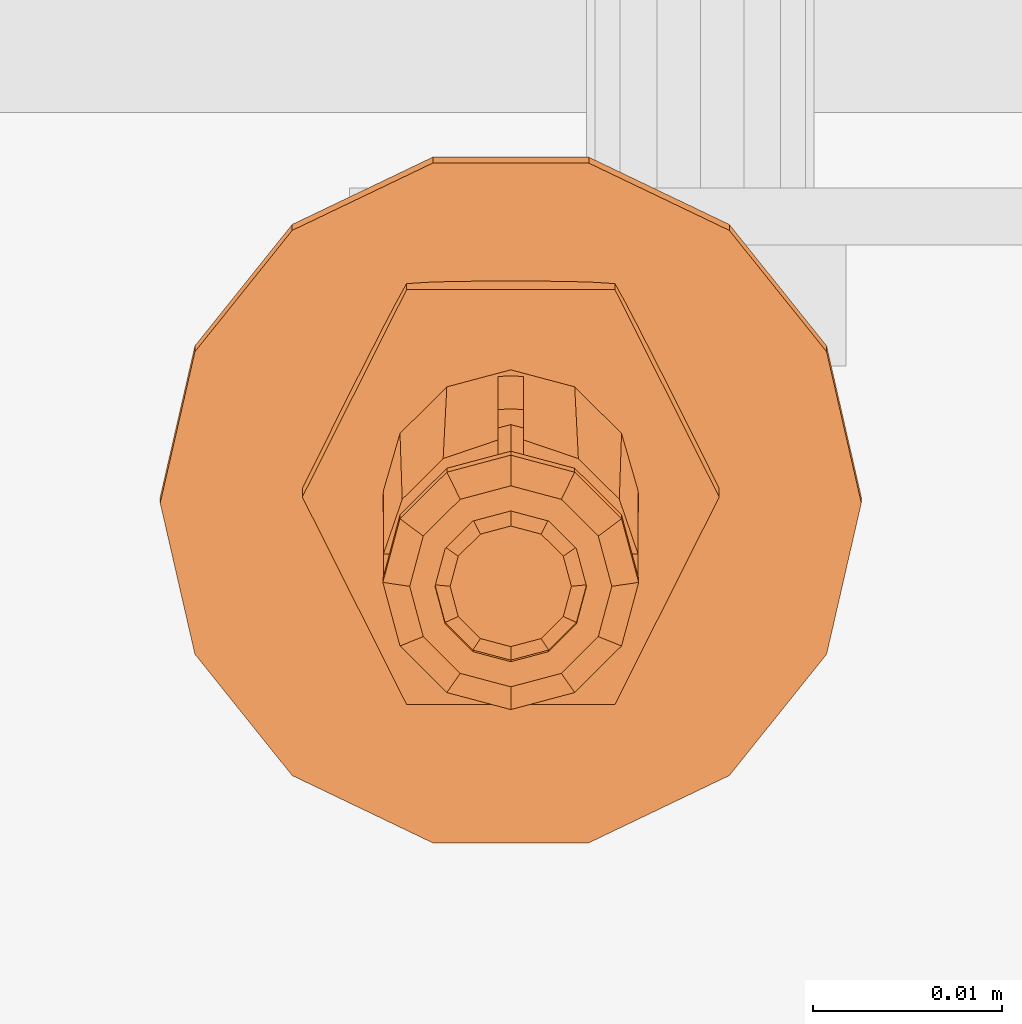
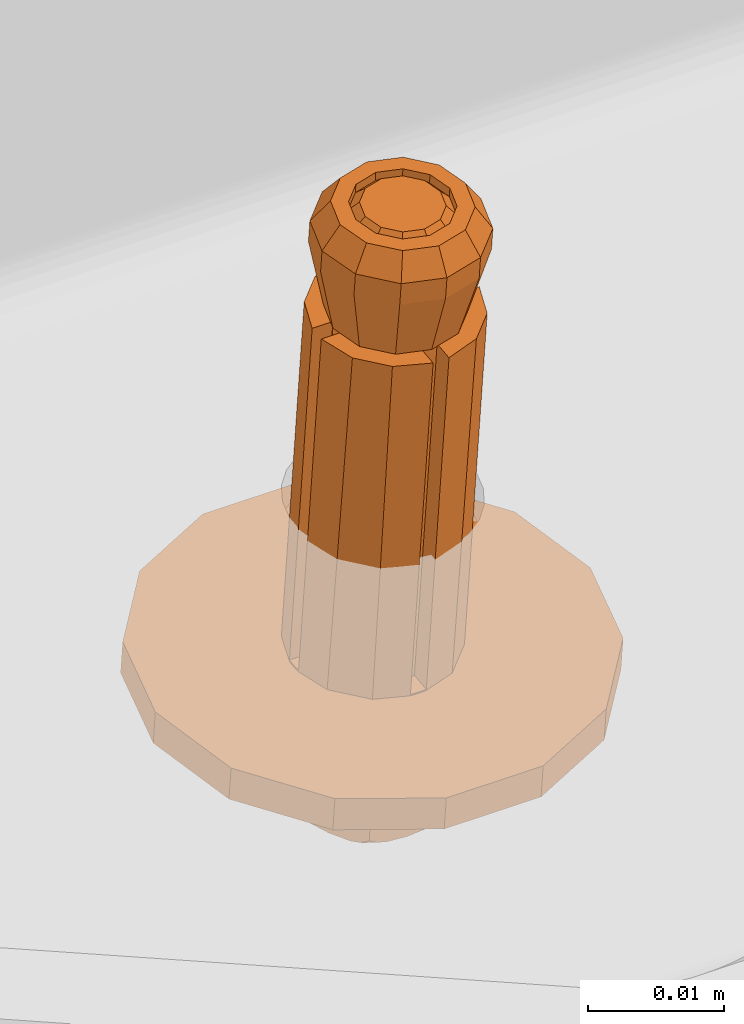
# One storey, part 134 of 162: 2 proxies.
"""IFC2X3 building model written with IfcOpenShell, lengths in millimetres."""

from ifc_helpers import new_model, entity, si_unit, converted_unit, origin_with_axes, place, context, project, spatial, faceted_brep, material, element, save


model = new_model("IFC2X3")

# Units and contexts
model_context = context("Model", 3, precision=1e-09, world=origin_with_axes())
ifc_project = project(units=[si_unit("LENGTHUNIT", "METRE", prefix="MILLI"), si_unit("AREAUNIT", "SQUARE_METRE"), si_unit("VOLUMEUNIT", "CUBIC_METRE"), converted_unit("PLANEANGLEUNIT", "DEGREE", entity("IfcPlaneAngleMeasure", 0.01745329), si_unit("PLANEANGLEUNIT", "RADIAN"), dimensions=[0, 0, 0, 0, 0, 0, 0])], contexts=[model_context])

# Site, building, storey
site_placement = place(None, origin_with_axes())
site = spatial("IfcSite", under=ifc_project, at=site_placement, Name="Hermannstra?e 1a, 60318 Frankfurt", CompositionType="ELEMENT")
building_placement = place(site_placement, origin_with_axes())
building = spatial("IfcBuilding", under=site, at=building_placement, Name="Struktur 1", CompositionType="ELEMENT")
storey_placement = place(building_placement, origin_with_axes())
storey = spatial("IfcBuildingStorey", under=building, at=storey_placement, Name="Default Storey", CompositionType="ELEMENT", Elevation=0.0)

# Proxies
ifc_material = material(Name="S235JR")
proxy_1_placement = place(None, origin_with_axes())
element("IfcBuildingElementProxy", 1, at=proxy_1_placement, inside=storey, material=ifc_material, ObjectType="-", context=model_context, shape_type="Brep", body=[
    faceted_brep([(2740.109364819, 2645.593143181, 17430.626436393), (2739.309364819, 2645.676765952, 17429.830818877), (2739.845263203, 2643.687722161, 17429.621761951), (2740.538083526, 2644.001908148, 17430.459190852), (2741.309364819, 2642.231641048, 17429.468721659), (2741.709364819, 2642.837043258, 17430.336758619), (2746.080646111, 2647.184378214, 17430.793681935), (2744.909364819, 2648.349243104, 17430.916114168), (2743.309364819, 2648.775613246, 17430.960927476), (2741.709364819, 2648.349243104, 17430.916114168), (2740.538083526, 2647.184378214, 17430.793681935), (2743.309364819, 2642.410673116, 17430.291945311), (2744.909364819, 2642.837043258, 17430.336758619), (2746.080646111, 2644.001908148, 17430.459190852), (2746.509364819, 2645.593143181, 17430.626436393), (2739.845263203, 2647.665809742, 17430.039875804), (2743.309364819, 2641.69867837, 17429.412705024), (2739.309364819, 2650.150584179, 17387.265281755), (2739.845263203, 2648.161540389, 17387.056224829), (2739.845263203, 2652.13962797, 17387.474338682), (2741.309364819, 2649.121890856, 17430.192916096), (2741.309364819, 2646.705459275, 17386.903184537), (2746.773466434, 2643.687722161, 17429.621761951), (2747.309364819, 2645.676765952, 17429.830818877), (2745.309364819, 2642.231641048, 17429.468721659), (2743.309364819, 2649.654853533, 17430.24893273), (2745.309364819, 2649.121890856, 17430.192916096), (2746.773466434, 2647.665809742, 17430.039875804), (2741.309364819, 2653.595709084, 17387.627378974), (2743.309364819, 2646.172496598, 17386.847167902), (2738.9792378, 2647.664279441, 17387.003960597), (2740.809364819, 2645.844178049, 17386.812660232), (2743.309364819, 2645.177974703, 17386.742639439), (2745.809364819, 2645.844178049, 17386.812660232), (2747.639491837, 2647.664279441, 17387.003960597), (2748.309364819, 2650.150584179, 17387.265281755), (2747.639491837, 2652.636888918, 17387.526602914), (2745.809364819, 2654.45699031, 17387.717903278), (2743.309364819, 2655.123193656, 17387.787924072), (2740.809364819, 2654.45699031, 17387.717903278), (2738.9792378, 2652.636888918, 17387.526602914), (2738.309364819, 2650.150584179, 17387.265281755), (2743.309364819, 2654.128671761, 17387.683395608), (2745.309364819, 2653.595709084, 17387.627378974), (2746.773466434, 2652.13962797, 17387.474338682), (2747.309364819, 2650.150584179, 17387.265281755), (2746.773466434, 2648.161540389, 17387.056224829), (2745.309364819, 2646.705459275, 17386.903184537), (2738.355136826, 2649.312036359, 17388.785960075), (2738.355136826, 2650.654640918, 17388.927073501), (2740.61652503, 2650.82825943, 17421.121586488), (2739.096454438, 2649.316515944, 17420.962695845), (2738.355136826, 2645.967125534, 17420.610660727), (2739.096454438, 2643.960339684, 17420.399739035), (2740.61652503, 2642.448596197, 17420.240848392), (2738.314457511, 2649.758962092, 17388.832933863), (2738.314457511, 2650.207715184, 17388.880099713), (2738.355136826, 2647.309730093, 17420.751774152), (2742.634364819, 2651.565516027, 17421.199075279), (2742.634364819, 2654.910426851, 17389.374374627), (2737.579618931, 2643.089710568, 17420.308232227), (2739.741100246, 2640.940070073, 17420.082295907), (2742.634364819, 2639.959054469, 17419.979187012), (2742.634364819, 2641.711339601, 17420.163359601), (2736.593199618, 2645.967125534, 17420.610660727), (2742.634364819, 2645.056250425, 17388.338658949), (2736.593199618, 2649.312036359, 17388.785960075), (2736.593199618, 2650.654640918, 17388.927073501), (2736.563127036, 2650.207439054, 17388.880070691), (2736.563127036, 2649.759238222, 17388.832962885), (2743.984364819, 2645.056250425, 17388.338658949), (2743.984364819, 2654.910426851, 17389.374374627), (2736.593199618, 2647.309730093, 17420.751774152), (2739.741100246, 2652.336785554, 17421.280138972), (2737.579618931, 2650.18714506, 17421.054202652), (2742.634364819, 2653.317801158, 17421.383247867), (2743.083752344, 2654.950883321, 17389.378626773), (2743.534977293, 2654.950883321, 17389.378626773), (2743.083752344, 2645.015793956, 17388.334406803), (2748.263592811, 2649.312036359, 17388.785960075), (2743.534977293, 2645.015793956, 17388.334406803), (2746.002204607, 2642.448596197, 17420.240848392), (2747.522275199, 2643.960339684, 17420.399739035), (2743.984364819, 2641.711339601, 17420.163359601), (2743.984364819, 2651.565516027, 17421.199075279), (2747.522275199, 2649.316515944, 17420.962695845), (2746.002204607, 2650.82825943, 17421.121586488), (2748.263592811, 2647.309730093, 17420.751774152), (2748.263592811, 2650.654640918, 17388.927073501), (2736.559364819, 2650.306426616, 17385.782540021), (2742.634364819, 2656.662711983, 17389.558547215), (2743.984364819, 2656.662711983, 17389.558547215), (2743.534699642, 2656.692619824, 17389.561690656), (2743.084029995, 2656.692619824, 17389.561690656), (2737.463693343, 2646.949915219, 17385.429756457), (2743.534699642, 2643.274057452, 17388.15134292), (2743.984364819, 2643.303965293, 17388.154486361), (2742.634364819, 2643.303965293, 17388.154486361), (2743.084029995, 2643.274057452, 17388.15134292), (2748.304272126, 2649.758962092, 17388.832933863), (2748.263592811, 2645.967125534, 17420.610660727), (2743.984364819, 2639.959054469, 17419.979187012), (2743.984364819, 2653.317801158, 17421.383247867), (2749.039110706, 2650.18714506, 17421.054202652), (2746.877629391, 2652.336785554, 17421.280138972), (2750.025530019, 2647.309730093, 17420.751774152), (2748.304272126, 2650.207715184, 17388.880099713), (2737.463693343, 2653.662938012, 17386.135323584), (2739.934364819, 2656.120074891, 17386.393579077), (2739.934364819, 2644.49277834, 17385.171500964), (2750.055602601, 2650.207439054, 17388.880070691), (2750.025530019, 2650.654640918, 17388.927073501), (2750.025530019, 2649.312036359, 17388.785960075), (2750.055602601, 2649.759238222, 17388.832962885), (2750.025530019, 2645.967125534, 17420.610660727), (2743.309364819, 2643.593403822, 17385.076972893), (2746.877629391, 2640.940070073, 17420.082295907), (2749.039110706, 2643.089710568, 17420.308232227), (2743.309364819, 2657.019449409, 17386.488107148), (2732.309364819, 2650.306426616, 17385.782540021), (2737.809364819, 2639.366685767, 17384.632726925), (2748.809364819, 2639.366685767, 17384.632726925), (2754.309364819, 2650.306426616, 17385.782540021), (2748.809364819, 2661.246167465, 17386.932353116), (2737.809364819, 2661.246167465, 17386.932353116), (2746.684364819, 2656.120074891, 17386.393579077), (2749.155036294, 2653.662938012, 17386.135323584), (2750.059364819, 2650.306426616, 17385.782540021), (2749.155036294, 2646.949915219, 17385.429756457), (2746.684364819, 2644.49277834, 17385.171500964), (2737.239499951, 2640.92273113, 17380.731479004), (2739.042011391, 2639.76612164, 17380.83234845), (2737.809364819, 2639.689819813, 17381.55831184), (2737.525889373, 2640.767734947, 17380.704156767), (2736.585353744, 2642.275185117, 17380.379874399), (2732.309364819, 2650.773352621, 17381.340035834), (2735.145748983, 2645.172295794, 17380.360449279), (2747.576718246, 2639.76612164, 17380.83234845), (2748.809364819, 2639.689819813, 17381.55831184), (2740.418054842, 2639.807365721, 17380.439937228), (2743.309364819, 2639.833611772, 17380.190222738), (2746.200674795, 2639.807365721, 17380.439937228), (2738.040284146, 2641.720111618, 17380.166489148), (2736.585353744, 2659.285443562, 17382.167724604), (2735.145748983, 2656.455680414, 17381.546380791), (2737.809364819, 2661.569301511, 17383.857938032), (2737.239499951, 2660.535240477, 17382.7928368), (2732.771203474, 2650.79643214, 17381.120448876), (2739.042011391, 2661.645603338, 17383.131974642), (2747.576718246, 2661.645603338, 17383.131974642), (2746.200674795, 2661.686847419, 17382.73956342), (2743.309364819, 2661.71309347, 17382.48984893), (2740.418054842, 2661.686847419, 17382.73956342), (2748.809364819, 2661.569301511, 17383.857938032), (2743.309364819, 2640.315999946, 17380.018911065), (2749.379229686, 2640.92273113, 17380.731479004), (2749.092840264, 2640.767734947, 17380.704156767), (2738.634364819, 2642.766586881, 17380.053939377), (2733.959364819, 2650.819566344, 17380.900341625), (2737.525889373, 2660.692530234, 17382.798337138), (2750.033375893, 2642.275185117, 17380.379874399), (2751.472980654, 2645.172295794, 17380.360449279), (2754.309364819, 2650.773352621, 17381.340035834), (2748.578445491, 2641.720111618, 17380.166489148), (2735.212027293, 2646.170176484, 17380.411671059), (2743.309364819, 2641.520786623, 17379.923000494), (2738.040284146, 2659.872752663, 17382.074408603), (2749.092840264, 2660.692530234, 17382.798337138), (2749.379229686, 2660.535240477, 17382.7928368), (2751.472980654, 2656.455680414, 17381.546380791), (2750.033375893, 2659.285443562, 17382.167724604), (2747.984364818, 2642.766586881, 17380.053939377), (2735.212027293, 2655.468956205, 17381.389012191), (2738.634364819, 2658.872545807, 17381.746743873), (2743.309364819, 2660.118346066, 17381.877682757), (2747.984364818, 2658.872545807, 17381.746743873), (2751.406702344, 2655.468956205, 17381.389012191), (2752.659364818, 2650.819566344, 17380.900341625), (2751.406702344, 2646.170176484, 17380.411671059), (2740.059364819, 2644.355174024, 17380.220906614), (2746.559364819, 2644.355174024, 17380.220906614), (2749.809364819, 2650.819566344, 17380.900341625), (2746.559364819, 2657.283958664, 17381.579776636), (2740.059364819, 2657.283958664, 17381.579776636), (2736.809364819, 2650.819566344, 17380.900341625), (2739.722626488, 2645.64041861, 17374.435619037), (2740.787746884, 2644.956967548, 17374.49522371), (2740.059364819, 2644.911880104, 17374.924202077), (2736.809364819, 2651.4612404, 17374.7952208), (2738.485410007, 2648.151525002, 17374.216374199), (2739.336085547, 2646.439595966, 17374.227852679), (2743.309364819, 2661.276864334, 17382.221986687), (2748.578445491, 2659.872752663, 17382.074408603), (2745.017866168, 2644.98133905, 17374.263344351), (2745.830982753, 2644.956967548, 17374.49522371), (2746.559364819, 2644.911880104, 17374.924202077), (2741.600863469, 2644.98133905, 17374.263344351), (2743.309364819, 2644.99684808, 17374.115785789), (2739.891856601, 2645.548829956, 17374.419474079), (2737.082269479, 2651.474878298, 17374.66546487), (2753.847526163, 2650.79643214, 17381.120448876), (2740.195817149, 2646.111597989, 17374.101761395), (2737.784364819, 2651.488548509, 17374.535401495), (2738.485410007, 2654.818979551, 17374.917151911), (2740.059364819, 2657.840664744, 17376.283072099), (2739.722626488, 2657.229628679, 17375.653694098), (2739.336085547, 2656.49111232, 17375.284309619), (2738.524574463, 2648.741181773, 17374.246641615), (2740.787746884, 2657.885752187, 17375.854093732), (2746.559364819, 2657.840664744, 17376.283072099), (2745.830982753, 2657.885752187, 17375.854093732), (2745.017866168, 2657.91012369, 17375.622214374), (2743.309364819, 2657.92563272, 17375.474655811), (2741.600863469, 2657.91012369, 17375.622214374), (2746.896103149, 2645.64041861, 17374.435619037), (2743.309364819, 2645.281895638, 17374.014556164), (2740.546864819, 2646.729969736, 17374.035254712), (2746.071864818, 2656.247127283, 17375.035548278), (2748.094155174, 2654.235915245, 17374.824161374), (2748.834364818, 2651.488548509, 17374.535401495), (2748.094155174, 2648.741181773, 17374.246641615), (2746.071864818, 2646.729969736, 17374.035254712), (2743.309364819, 2645.993815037, 17373.957881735), (2738.524574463, 2654.235915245, 17374.824161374), (2740.546864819, 2656.247127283, 17375.035548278), (2743.309364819, 2656.983281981, 17375.112921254), (2739.891856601, 2657.322572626, 17375.656944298), (2746.726873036, 2645.548829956, 17374.419474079), (2747.28264409, 2646.439595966, 17374.227852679), (2748.13331963, 2648.151525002, 17374.216374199), (2749.809364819, 2651.4612404, 17374.7952208), (2740.195817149, 2656.838158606, 17375.229168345), (2746.896103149, 2657.229628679, 17375.653694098), (2746.422912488, 2646.111597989, 17374.101761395), (2743.309364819, 2657.667860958, 17375.316373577), (2746.726873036, 2657.322572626, 17375.656944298), (2748.13331963, 2654.818979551, 17374.917151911), (2747.28264409, 2656.49111232, 17375.284309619), (2746.422912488, 2656.838158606, 17375.229168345), (2749.536460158, 2651.474878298, 17374.66546487)], [[[0, 1, 2, 3]], [[3, 2, 4, 5]], [[6, 7, 8, 9, 10, 0, 3, 5, 11, 12, 13, 14]], [[1, 0, 10, 15]], [[5, 4, 16, 11]], [[1, 17, 18, 2]], [[15, 19, 17, 1]], [[15, 10, 9, 20]], [[2, 18, 21, 4]], [[13, 22, 23, 14]], [[12, 24, 22, 13]], [[11, 16, 24, 12]], [[8, 25, 20, 9]], [[7, 26, 25, 8]], [[6, 27, 26, 7]], [[14, 23, 27, 6]], [[19, 15, 20, 28]], [[4, 21, 29, 16]], [[30, 31, 32, 33, 34, 35, 36, 37, 38, 39, 40, 41], [29, 21, 18, 17, 19, 28, 42, 43, 44, 45, 46, 47]], [[28, 20, 25, 42]], [[22, 46, 45, 23]], [[24, 47, 46, 22]], [[16, 29, 47, 24]], [[26, 43, 42, 25]], [[27, 44, 43, 26]], [[23, 45, 44, 27]], [[30, 41, 48]], [[41, 40, 49]], [[40, 39, 50, 51]], [[30, 52, 53]], [[31, 30, 53, 54]], [[30, 48, 52]], [[41, 55, 48]], [[41, 56, 55]], [[41, 49, 56]], [[40, 57, 49]], [[40, 51, 57]], [[39, 58, 50]], [[39, 38, 59]], [[60, 61, 62, 63, 54, 53, 52, 64]], [[32, 31, 65]], [[31, 54, 63]], [[52, 48, 66, 64]], [[55, 56, 49, 67, 68, 69, 66, 48]], [[33, 32, 70]], [[38, 37, 71]], [[49, 57, 72, 67]], [[73, 74, 72, 57, 51, 50, 58, 75]], [[39, 59, 58]], [[38, 76, 59]], [[38, 77, 76]], [[32, 65, 78]], [[31, 63, 65]], [[35, 34, 79]], [[32, 80, 70]], [[32, 78, 80]], [[34, 33, 81, 82]], [[33, 70, 83]], [[38, 71, 77]], [[37, 84, 71]], [[37, 36, 85, 86]], [[36, 87, 85]], [[36, 35, 88]], [[69, 68, 89]], [[58, 59, 90, 75]], [[76, 77, 71, 91, 92, 93, 90, 59]], [[60, 64, 94]], [[95, 96, 70, 80, 78, 65, 97, 98]], [[65, 63, 62, 97]], [[66, 94, 64]], [[66, 69, 89]], [[35, 79, 99]], [[34, 100, 79]], [[34, 82, 100]], [[83, 70, 96, 101]], [[33, 83, 81]], [[71, 84, 102, 91]], [[37, 86, 84]], [[103, 104, 102, 84, 86, 85, 87, 105]], [[36, 88, 87]], [[35, 106, 88]], [[35, 99, 106]], [[67, 89, 68]], [[67, 72, 107]], [[72, 74, 107]], [[73, 108, 107, 74]], [[73, 75, 108]], [[60, 94, 109, 61]], [[62, 61, 109]], [[66, 89, 94]], [[110, 111, 88, 106, 99, 79, 112, 113]], [[79, 100, 114, 112]], [[95, 98, 115]], [[116, 117, 114, 100, 82, 81, 83, 101]], [[93, 92, 118]], [[87, 88, 111, 105]], [[67, 107, 89]], [[90, 108, 75]], [[90, 93, 118]], [[97, 115, 98]], [[97, 62, 109]], [[119, 120, 121, 122, 123, 124], [109, 94, 89, 107, 108, 118, 125, 126, 127, 128, 129, 115]], [[96, 129, 101]], [[96, 95, 115]], [[116, 101, 129]], [[91, 118, 92]], [[91, 102, 125]], [[103, 105, 126]], [[110, 113, 127]], [[90, 118, 108]], [[97, 109, 115]], [[112, 127, 113]], [[112, 114, 128]], [[96, 115, 129]], [[114, 117, 128]], [[116, 129, 128, 117]], [[130, 131, 132]], [[130, 133, 131]], [[134, 133, 130]], [[135, 136, 134, 130, 132, 120, 119]], [[91, 125, 118]], [[102, 104, 125]], [[103, 126, 125, 104]], [[111, 126, 105]], [[111, 110, 127]], [[112, 128, 127]], [[137, 138, 121, 120, 132, 131, 139, 140, 141]], [[133, 139, 131]], [[134, 142, 133]], [[111, 127, 126]], [[143, 144, 135, 119, 124, 145, 146]], [[133, 142, 139]], [[136, 142, 134]], [[147, 136, 135]], [[146, 145, 148]], [[149, 150, 151, 152, 148, 145, 124, 123, 153]], [[140, 139, 154]], [[155, 138, 137]], [[141, 156, 137]], [[155, 137, 156]], [[142, 154, 139]], [[136, 157, 142]], [[147, 158, 136]], [[144, 147, 135]], [[143, 146, 159]], [[146, 148, 159]], [[160, 161, 162, 122, 121, 138, 155]], [[141, 140, 154]], [[141, 163, 156]], [[160, 155, 156]], [[157, 136, 164]], [[142, 157, 165, 154]], [[158, 164, 136]], [[144, 158, 147]], [[143, 159, 166]], [[152, 159, 148]], [[167, 150, 149]], [[168, 167, 149]], [[168, 149, 153]], [[162, 169, 170, 168, 153, 123, 122]], [[141, 154, 163]], [[160, 156, 163]], [[171, 165, 157, 164, 158, 172, 173, 174, 175, 176, 177, 178], [179, 180, 181, 182, 183, 184]], [[185, 186, 187]], [[179, 184, 188, 189, 190, 185, 187]], [[158, 144, 172]], [[166, 144, 143]], [[152, 166, 159]], [[152, 151, 191]], [[151, 150, 191]], [[167, 192, 150]], [[170, 167, 168]], [[154, 165, 171, 163]], [[163, 161, 160]], [[193, 194, 195, 180, 179, 187, 186, 196, 197]], [[185, 198, 186]], [[190, 198, 185]], [[199, 189, 188]], [[173, 172, 144]], [[166, 173, 144]], [[152, 191, 166]], [[192, 191, 150]], [[170, 192, 167]], [[161, 200, 162]], [[163, 171, 161]], [[198, 196, 186]], [[190, 201, 198]], [[199, 202, 189]], [[203, 199, 188]], [[183, 204, 205, 206, 203, 188, 184]], [[173, 166, 191, 174]], [[192, 175, 174, 191]], [[169, 192, 170]], [[200, 169, 162]], [[161, 177, 200]], [[171, 178, 161]], [[198, 201, 196]], [[189, 201, 190]], [[202, 207, 189]], [[205, 204, 208]], [[203, 202, 199]], [[183, 182, 209, 210, 211, 212, 213, 208, 204]], [[169, 175, 192]], [[177, 161, 178]], [[200, 177, 169]], [[214, 195, 194]], [[197, 196, 215]], [[201, 215, 196]], [[189, 216, 201]], [[216, 189, 207]], [[217, 218, 219, 220, 221, 222, 216, 207, 202, 223, 224, 225]], [[206, 205, 226]], [[205, 208, 226]], [[202, 203, 223]], [[175, 169, 176]], [[177, 176, 169]], [[193, 227, 194]], [[214, 194, 227]], [[228, 229, 230, 181, 180, 195, 214]], [[193, 197, 215]], [[201, 216, 222, 215]], [[206, 226, 231]], [[213, 226, 208]], [[224, 223, 203]], [[231, 203, 206]], [[232, 210, 209]], [[193, 233, 227]], [[228, 214, 227]], [[193, 215, 233]], [[213, 231, 226]], [[231, 224, 203]], [[213, 212, 234]], [[235, 211, 210]], [[232, 235, 210]], [[182, 181, 230, 236, 237, 232, 209]], [[228, 227, 233]], [[215, 222, 221, 233]], [[213, 234, 231]], [[224, 231, 234, 225]], [[212, 211, 234]], [[235, 238, 211]], [[237, 235, 232]], [[229, 239, 230]], [[233, 229, 228]], [[239, 236, 230]], [[238, 234, 211]], [[237, 238, 235]], [[229, 219, 239]], [[233, 221, 229]], [[225, 234, 238, 217]], [[239, 219, 236]], [[236, 238, 237]], [[219, 229, 220]], [[221, 220, 229]], [[219, 218, 236]], [[236, 217, 238]], [[217, 236, 218]]]),
    faceted_brep([(2739.934364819, 2651.615848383, 17429.248431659), (2740.642698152, 2650.186643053, 17431.109232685), (2743.309364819, 2650.897259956, 17431.183921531), (2743.309364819, 2652.515222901, 17429.34295973), (2743.309364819, 2651.942544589, 17421.238702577), (2743.309364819, 2652.724279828, 17427.353915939), (2746.684364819, 2651.82490531, 17427.259387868), (2745.976031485, 2651.231927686, 17421.164013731), (2737.463693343, 2649.158711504, 17428.990176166), (2738.690562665, 2648.245201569, 17430.905178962), (2737.976031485, 2645.593143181, 17430.626436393), (2738.690562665, 2642.941084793, 17430.347693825), (2740.642698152, 2640.999643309, 17430.143640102), (2743.309364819, 2640.289026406, 17430.068951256), (2745.976031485, 2640.999643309, 17430.143640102), (2747.928166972, 2642.941084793, 17430.347693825), (2748.642698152, 2645.593143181, 17430.626436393), (2747.928166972, 2648.245201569, 17430.905178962), (2745.976031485, 2650.186643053, 17431.109232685), (2739.309364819, 2645.593143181, 17430.626436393), (2739.845263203, 2647.582186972, 17430.83549332), (2741.309364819, 2649.038268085, 17430.988533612), (2743.309364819, 2649.571230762, 17431.044550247), (2745.309364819, 2649.038268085, 17430.988533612), (2746.773466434, 2647.582186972, 17430.83549332), (2747.309364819, 2645.593143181, 17430.626436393), (2746.773466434, 2643.60409939, 17430.417379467), (2745.309364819, 2642.148018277, 17430.264339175), (2743.309364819, 2641.6150556, 17430.20832254), (2741.309364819, 2642.148018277, 17430.264339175), (2739.845263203, 2643.60409939, 17430.417379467), (2738.690562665, 2649.290486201, 17420.959960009), (2740.642698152, 2651.231927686, 17421.164013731), (2747.928166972, 2649.290486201, 17420.959960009), (2748.642698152, 2646.638427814, 17420.68121744), (2747.928166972, 2643.986369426, 17420.402474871), (2745.976031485, 2642.044927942, 17420.198421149), (2743.309364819, 2641.334311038, 17420.123732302), (2740.642698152, 2642.044927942, 17420.198421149), (2738.690562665, 2643.986369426, 17420.402474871), (2737.976031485, 2646.638427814, 17420.68121744), (2743.309364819, 2650.616515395, 17421.099331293), (2741.309364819, 2650.083552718, 17421.043314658), (2739.845263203, 2648.627471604, 17420.890274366), (2739.309364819, 2646.638427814, 17420.68121744), (2739.845263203, 2644.649384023, 17420.472160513), (2741.309364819, 2643.19330291, 17420.319120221), (2743.309364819, 2642.660340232, 17420.263103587), (2745.309364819, 2643.19330291, 17420.319120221), (2746.773466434, 2644.649384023, 17420.472160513), (2747.309364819, 2646.638427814, 17420.68121744), (2746.773466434, 2648.627471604, 17420.890274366), (2745.309364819, 2650.083552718, 17421.043314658), (2739.934364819, 2651.82490531, 17427.259387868), (2746.684364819, 2651.615848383, 17429.248431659), (2749.155036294, 2649.367768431, 17427.001132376), (2736.559364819, 2645.802200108, 17428.637392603), (2737.463693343, 2649.367768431, 17427.001132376), (2749.155036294, 2649.158711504, 17428.990176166), (2750.059364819, 2646.011257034, 17426.648348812), (2737.463693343, 2642.445688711, 17428.284609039), (2736.559364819, 2646.011257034, 17426.648348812), (2750.059364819, 2645.802200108, 17428.637392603), (2749.155036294, 2642.654745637, 17426.295565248), (2739.934364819, 2639.988551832, 17428.026353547), (2737.463693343, 2642.654745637, 17426.295565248), (2749.155036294, 2642.445688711, 17428.284609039), (2746.684364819, 2640.197608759, 17426.037309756), (2743.309364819, 2639.089177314, 17427.931825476), (2739.934364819, 2640.197608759, 17426.037309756), (2746.684364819, 2639.988551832, 17428.026353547), (2743.309364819, 2639.29823424, 17425.942781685)], [[[0, 1, 2, 3]], [[4, 5, 6, 7]], [[1, 0, 8, 9]], [[9, 10, 11, 12, 13, 14, 15, 16, 17, 18, 2, 1], [19, 20, 21, 22, 23, 24, 25, 26, 27, 28, 29, 30]], [[31, 32, 4, 7, 33, 34, 35, 36, 37, 38, 39, 40], [41, 42, 43, 44, 45, 46, 47, 48, 49, 50, 51, 52]], [[5, 4, 32, 53]], [[41, 22, 21, 42]], [[3, 5, 53, 0]], [[22, 41, 52, 23]], [[3, 2, 18, 54]], [[5, 3, 54, 6]], [[7, 6, 55, 33]], [[9, 8, 56, 10]], [[0, 53, 57, 8]], [[42, 21, 20, 43]], [[53, 32, 31, 57]], [[23, 52, 51, 24]], [[54, 18, 17, 58]], [[6, 54, 58, 55]], [[33, 55, 59, 34]], [[10, 56, 60, 11]], [[8, 57, 61, 56]], [[19, 44, 43, 20]], [[57, 31, 40, 61]], [[50, 25, 24, 51]], [[44, 19, 30, 45]], [[58, 17, 16, 62]], [[55, 58, 62, 59]], [[29, 46, 45, 30]], [[34, 59, 63, 35]], [[49, 26, 25, 50]], [[48, 27, 26, 49]], [[28, 47, 46, 29]], [[11, 60, 64, 12]], [[56, 61, 65, 60]], [[61, 40, 39, 65]], [[47, 28, 27, 48]], [[62, 16, 15, 66]], [[59, 62, 66, 63]], [[35, 63, 67, 36]], [[12, 64, 68, 13]], [[60, 65, 69, 64]], [[65, 39, 38, 69]], [[66, 15, 14, 70]], [[63, 66, 70, 67]], [[37, 71, 69, 38]], [[36, 67, 71, 37]], [[13, 68, 70, 14]], [[64, 69, 71, 68]], [[67, 70, 68, 71]]]),
])
proxy_2_placement = place(None, origin_with_axes())
element("IfcBuildingElementProxy", 2, at=proxy_2_placement, inside=storey, material=ifc_material, ObjectType="-", context=model_context, shape_type="Brep", body=[
    faceted_brep([(2731.774803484, 2635.921778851, 17384.270652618), (2731.774803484, 2635.608193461, 17387.254218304), (2726.641440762, 2642.009963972, 17387.927071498), (2726.641440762, 2642.323549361, 17384.943505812), (2747.426002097, 2632.369064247, 17383.897247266), (2739.19272754, 2632.369064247, 17383.897247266), (2724.809364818, 2650.306426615, 17385.782540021), (2726.641440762, 2658.289303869, 17386.62157423), (2731.774803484, 2664.69107438, 17387.294427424), (2739.19272754, 2668.243788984, 17387.667832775), (2747.426002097, 2668.243788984, 17387.667832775), (2754.843926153, 2664.69107438, 17387.294427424), (2759.977288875, 2658.289303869, 17386.62157423), (2761.809364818, 2650.306426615, 17385.782540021), (2759.977288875, 2642.323549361, 17384.943505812), (2754.843926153, 2635.921778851, 17384.270652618), (2740.059364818, 2644.708098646, 17385.194132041), (2743.309364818, 2643.842034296, 17385.10310501), (2746.559364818, 2644.708098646, 17385.194132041), (2748.938529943, 2647.074230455, 17385.442822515), (2749.809364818, 2650.306426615, 17385.782540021), (2748.938529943, 2653.538622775, 17386.122257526), (2746.559364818, 2655.904754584, 17386.370948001), (2743.309364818, 2656.770818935, 17386.461975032), (2740.059364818, 2655.904754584, 17386.370948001), (2737.680199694, 2653.538622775, 17386.122257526), (2736.809364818, 2650.306426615, 17385.782540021), (2737.680199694, 2647.074230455, 17385.442822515), (2726.641440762, 2657.97571848, 17389.605139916), (2724.809364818, 2649.992841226, 17388.766105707), (2739.19272754, 2632.055478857, 17386.880812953), (2747.426002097, 2632.055478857, 17386.880812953), (2754.843926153, 2635.608193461, 17387.254218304), (2759.977288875, 2642.009963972, 17387.927071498), (2761.809364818, 2649.992841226, 17388.766105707), (2759.977288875, 2657.97571848, 17389.605139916), (2754.843926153, 2664.37748899, 17390.27799311), (2747.426002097, 2667.930203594, 17390.651398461), (2739.19272754, 2667.930203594, 17390.651398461), (2731.774803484, 2664.37748899, 17390.27799311), (2736.809364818, 2649.992841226, 17388.766105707), (2737.680199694, 2653.225037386, 17389.105823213), (2740.059364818, 2655.591169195, 17389.354513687), (2743.309364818, 2656.457233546, 17389.445540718), (2746.559364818, 2655.591169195, 17389.354513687), (2748.938529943, 2653.225037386, 17389.105823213), (2749.809364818, 2649.992841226, 17388.766105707), (2748.938529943, 2646.760645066, 17388.426388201), (2746.559364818, 2644.394513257, 17388.177697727), (2743.309364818, 2643.528448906, 17388.086670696), (2740.059364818, 2644.394513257, 17388.177697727), (2737.680199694, 2646.760645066, 17388.426388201)], [[[0, 1, 2, 3]], [[4, 5, 0, 3, 6, 7, 8, 9, 10, 11, 12, 13, 14, 15], [16, 17, 18, 19, 20, 21, 22, 23, 24, 25, 26, 27]], [[28, 29, 2, 1, 30, 31, 32, 33, 34, 35, 36, 37, 38, 39], [40, 41, 42, 43, 44, 45, 46, 47, 48, 49, 50, 51]], [[1, 0, 5, 30]], [[27, 51, 50, 16]], [[51, 27, 26, 40]], [[3, 2, 29, 6]], [[30, 5, 4, 31]], [[16, 50, 49, 17]], [[40, 26, 25, 41]], [[6, 29, 28, 7]], [[31, 4, 15, 32]], [[17, 49, 48, 18]], [[41, 25, 24, 42]], [[7, 28, 39, 8]], [[32, 15, 14, 33]], [[18, 48, 47, 19]], [[42, 24, 23, 43]], [[8, 39, 38, 9]], [[33, 14, 13, 34]], [[19, 47, 46, 20]], [[22, 44, 43, 23]], [[9, 38, 37, 10]], [[45, 21, 20, 46]], [[44, 22, 21, 45]], [[34, 13, 12, 35]], [[10, 37, 36, 11]], [[35, 12, 11, 36]]]),
])

save(model, "model.ifc")
